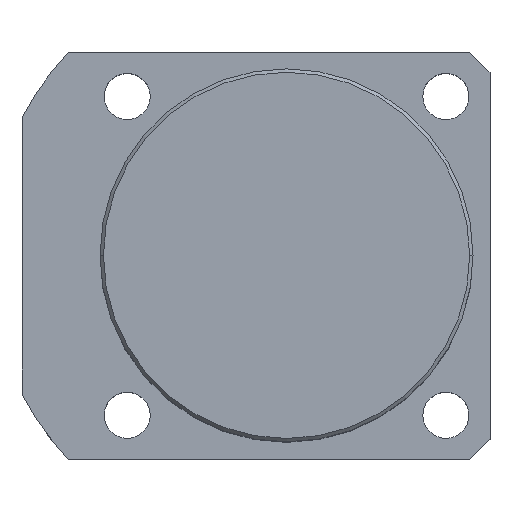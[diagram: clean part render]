
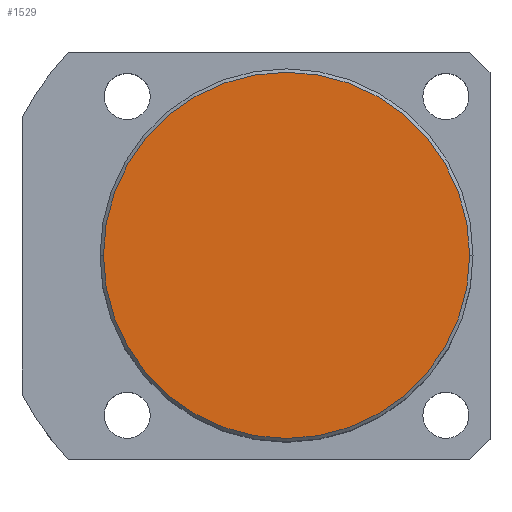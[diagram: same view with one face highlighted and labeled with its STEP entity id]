
A CAD part, top view. The second image highlights one B-rep face of the part: STEP entity #1529.
In plain terms, the highlighted planar face has unit normal (0, 0, 1).
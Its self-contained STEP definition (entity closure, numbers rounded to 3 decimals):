
#46 = DIRECTION ( 'NONE',  ( 0., 0., 1. ) ) ;
#49 = AXIS2_PLACEMENT_3D ( 'NONE', #1442, #986, #77 ) ;
#77 = DIRECTION ( 'NONE',  ( 1., 0., 0. ) ) ;
#194 = EDGE_CURVE ( 'NONE', #687, #1490, #807, .T. ) ;
#234 = DIRECTION ( 'NONE',  ( 0., 0., 1. ) ) ;
#524 = CARTESIAN_POINT ( 'NONE',  ( 0., 0., 55. ) ) ;
#629 = FACE_OUTER_BOUND ( 'NONE', #849, .T. ) ;
#671 = AXIS2_PLACEMENT_3D ( 'NONE', #524, #234, #1919 ) ;
#680 = ORIENTED_EDGE ( 'NONE', *, *, #1135, .T. ) ;
#687 = VERTEX_POINT ( 'NONE', #1931 ) ;
#807 = CIRCLE ( 'NONE', #49, 27. ) ;
#849 = EDGE_LOOP ( 'NONE', ( #680, #1100 ) ) ;
#919 = CIRCLE ( 'NONE', #671, 27. ) ;
#972 = CARTESIAN_POINT ( 'NONE',  ( 0., 0., 55. ) ) ;
#986 = DIRECTION ( 'NONE',  ( 0., 0., 1. ) ) ;
#1100 = ORIENTED_EDGE ( 'NONE', *, *, #194, .T. ) ;
#1135 = EDGE_CURVE ( 'NONE', #1490, #687, #919, .T. ) ;
#1442 = CARTESIAN_POINT ( 'NONE',  ( 0., 0., 55. ) ) ;
#1490 = VERTEX_POINT ( 'NONE', #1533 ) ;
#1529 = ADVANCED_FACE ( 'NONE', ( #629 ), #1733, .T. ) ;
#1533 = CARTESIAN_POINT ( 'NONE',  ( -27., 0., 55. ) ) ;
#1678 = AXIS2_PLACEMENT_3D ( 'NONE', #972, #46, #1887 ) ;
#1733 = PLANE ( 'NONE',  #1678 ) ;
#1887 = DIRECTION ( 'NONE',  ( 1., 0., 0. ) ) ;
#1919 = DIRECTION ( 'NONE',  ( 1., 0., 0. ) ) ;
#1931 = CARTESIAN_POINT ( 'NONE',  ( 27., 0., 55. ) ) ;
